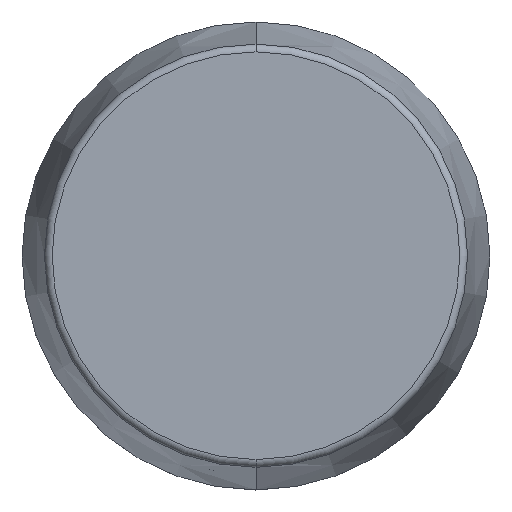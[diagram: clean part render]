
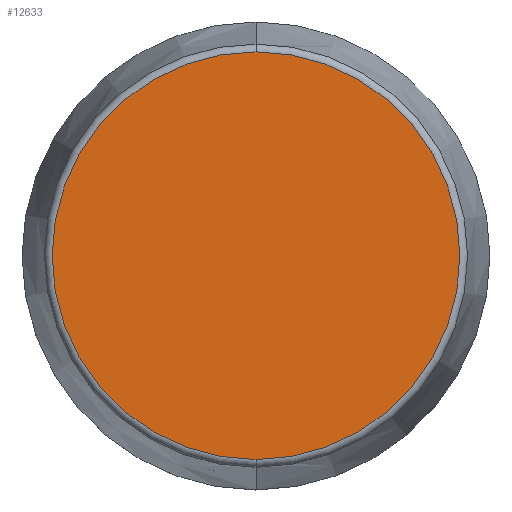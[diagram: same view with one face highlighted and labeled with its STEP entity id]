
A CAD part, top view. The second image highlights one B-rep face of the part: STEP entity #12633.
In plain terms, the highlighted planar face has unit normal (0, 0, 1) as drawn and (0, 1, 0) by its records, which use the part's own axes.
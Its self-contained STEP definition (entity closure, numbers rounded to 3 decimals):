
#97 = DIRECTION ( 'NONE',  ( 0., 0., -1. ) ) ;
#1205 = DIRECTION ( 'NONE',  ( 0., -1., 0. ) ) ;
#1347 = CARTESIAN_POINT ( 'NONE',  ( 0., 10., 13.069 ) ) ;
#2642 = CIRCLE ( 'NONE', #11095, 13.069 ) ;
#4199 = EDGE_CURVE ( 'NONE', #17446, #16621, #2642, .T. ) ;
#4402 = PLANE ( 'NONE',  #16533 ) ;
#5368 = FACE_OUTER_BOUND ( 'NONE', #18386, .T. ) ;
#5640 = CARTESIAN_POINT ( 'NONE',  ( 0., 10., 0. ) ) ;
#6391 = AXIS2_PLACEMENT_3D ( 'NONE', #5640, #1205, #97 ) ;
#7303 = DIRECTION ( 'NONE',  ( 0., 0., -1. ) ) ;
#7489 = DIRECTION ( 'NONE',  ( 0., 0., -1. ) ) ;
#8554 = CARTESIAN_POINT ( 'NONE',  ( 0., 10., 0. ) ) ;
#10283 = CARTESIAN_POINT ( 'NONE',  ( 0., 10., 0. ) ) ;
#10855 = ORIENTED_EDGE ( 'NONE', *, *, #4199, .F. ) ;
#11095 = AXIS2_PLACEMENT_3D ( 'NONE', #10283, #16102, #7489 ) ;
#11374 = ORIENTED_EDGE ( 'NONE', *, *, #12784, .F. ) ;
#12633 = ADVANCED_FACE ( 'NONE', ( #5368 ), #4402, .F. ) ;
#12784 = EDGE_CURVE ( 'NONE', #16621, #17446, #18924, .T. ) ;
#14730 = CARTESIAN_POINT ( 'NONE',  ( 0., 10., -13.069 ) ) ;
#16102 = DIRECTION ( 'NONE',  ( 0., -1., 0. ) ) ;
#16103 = DIRECTION ( 'NONE',  ( 0., -1., 0. ) ) ;
#16533 = AXIS2_PLACEMENT_3D ( 'NONE', #8554, #16103, #7303 ) ;
#16621 = VERTEX_POINT ( 'NONE', #1347 ) ;
#17446 = VERTEX_POINT ( 'NONE', #14730 ) ;
#18386 = EDGE_LOOP ( 'NONE', ( #10855, #11374 ) ) ;
#18924 = CIRCLE ( 'NONE', #6391, 13.069 ) ;
